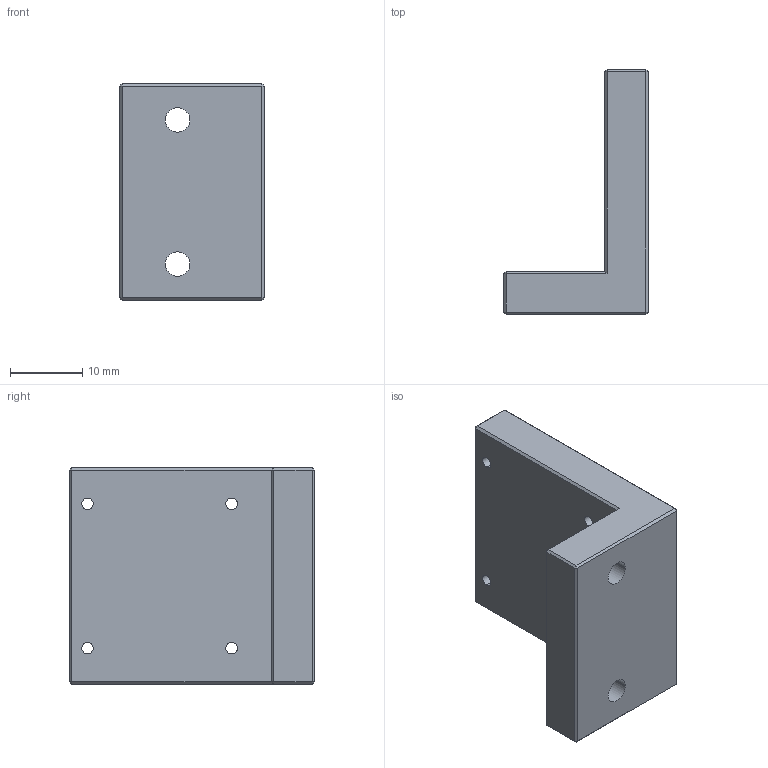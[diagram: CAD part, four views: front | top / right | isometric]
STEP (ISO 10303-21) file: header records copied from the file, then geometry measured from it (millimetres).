
FILE_DESCRIPTION (( 'STEP AP214' ), '1' );
FILE_NAME ('錨璃21.STEP', '2026-10-12T05:37:32', ( '' ), ( '' ), 'SwSTEP 2.0', 'SolidWorks 2024', '' );
FILE_SCHEMA (( 'AUTOMOTIVE_DESIGN' ));
Length unit declared in the file: millimetre
Products named in the file (1): 零件21
Bounding box: 20 x 34 x 30 mm (x, y, z)
Volume: 8466.5 mm3; surface area: 3947.8 mm2
Topology: 1 solids, 1 shells, 47 faces, 103 edges, 58 vertices
Faces by surface type: plane 35, cylinder 12
Entity records: 1292 total; most frequent: DIRECTION 223, CARTESIAN_POINT 209, ORIENTED_EDGE 206, EDGE_CURVE 103, VECTOR 79, LINE 79, AXIS2_PLACEMENT_3D 72, EDGE_LOOP 59
